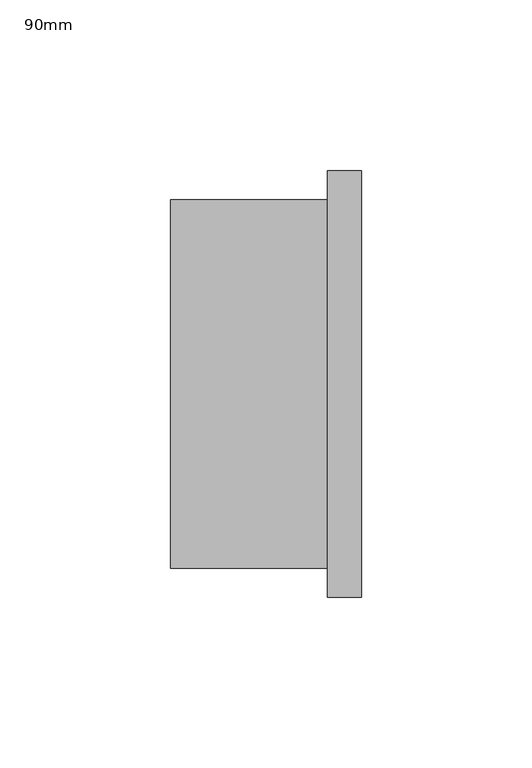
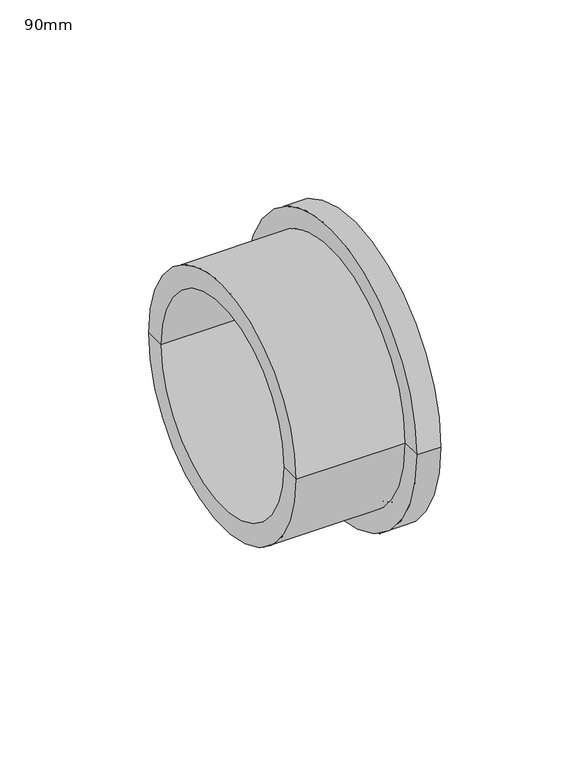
"""IFC4 building model written with IfcOpenShell, lengths in millimetres: pipe fitting geometry, Durapipe_PipeFitting_PVC_StubFlange : 90mm."""

from ifc_helpers import new_model, si_unit, frame, origin, place, context, project, spatial, polyline, circle_curve, source, transform, mapped, element, save
from ifc_brep_helpers import plane_surface, cylinder_surface, revolved_surface, advanced_brep


def pipe_fitting_90mm_9a9f9040(model_context):
    return source(origin(), model_context, "Body", "AdvancedBrep", [
        advanced_brep(
        [(28.0, -62.5, 0.0), (28.0, 62.5, 0.0), (28.0, 56.1, 0.0), (28.0, -56.1, 0.0), (28.0, 37.5, 0.0), (28.0, -37.5, 0.0), (28.0, -52.3720779, 0.0), (28.0, 52.3720779, 0.0), (18.0, -62.5, 0.0), (18.0, 62.5, 0.0), (18.0, -54.0, 0.0), (18.0, 54.0, 0.0), (-28.0, -54.0, 0.0), (-28.0, 54.0, 0.0), (-28.0, -45.0, 0.0), (-28.0, 45.0, 0.0), (23.0, 37.5, 0.0), (23.0, -37.5, 0.0), (23.0, -45.0, 0.0), (23.0, 45.0, 0.0), (28.0, 53.6147186, 0.0), (26.5, 52.9933983, 0.0), (26.5, -52.9933983, 0.0), (28.0, -53.6147186, 0.0), (26.5, -54.236039, 0.0), (26.5, 54.236039, 0.0), (28.0, -54.8573593, 0.0), (28.0, 54.8573593, 0.0), (26.5, -55.4786797, 0.0), (26.5, 55.4786797, 0.0)],
        [
            (0, 1, circle_curve(frame((28.0, 0.0, 0.0), z_axis=(1.0, 0.0, 0.0), x_axis=(0.0, 1.0, 0.0)), 62.5)),
            (1, 2),
            (2, 3, circle_curve(frame((28.0, 0.0, 0.0), z_axis=(-1.0, 0.0, 0.0), x_axis=(0.0, -1.0, 0.0)), 56.1)),
            (3, 0),
            (4, 5, circle_curve(frame((28.0, 0.0, 0.0), z_axis=(-1.0, 0.0, 0.0), x_axis=(0.0, 1.0, 0.0)), 37.5)),
            (5, 6),
            (6, 7, circle_curve(frame((28.0, 0.0, 0.0), z_axis=(1.0, 0.0, 0.0), x_axis=(0.0, -1.0, 0.0)), 52.3720779)),
            (7, 4),
            (1, 0, circle_curve(frame((28.0, 0.0, 0.0), z_axis=(1.0, 0.0, 0.0), x_axis=(0.0, 1.0, 0.0)), 62.5)),
            (3, 2, circle_curve(frame((28.0, 0.0, 0.0), z_axis=(-1.0, 0.0, 0.0), x_axis=(0.0, 1.0, 0.0)), 56.1)),
            (5, 4, circle_curve(frame((28.0, 0.0, 0.0), z_axis=(-1.0, 0.0, 0.0), x_axis=(0.0, 1.0, 0.0)), 37.5)),
            (7, 6, circle_curve(frame((28.0, 0.0, 0.0), z_axis=(1.0, 0.0, 0.0), x_axis=(0.0, 1.0, 0.0)), 52.3720779)),
            (0, 8),
            (8, 9, circle_curve(frame((18.0, 0.0, 0.0), z_axis=(1.0, 0.0, 0.0), x_axis=(0.0, 1.0, 0.0)), 62.5)),
            (9, 1),
            (9, 8, circle_curve(frame((18.0, 0.0, 0.0), z_axis=(1.0, 0.0, 0.0), x_axis=(0.0, 1.0, 0.0)), 62.5)),
            (8, 10),
            (10, 11, circle_curve(frame((18.0, 0.0, 0.0), z_axis=(1.0, 0.0, 0.0), x_axis=(0.0, 1.0, 0.0)), 54.0)),
            (11, 9),
            (11, 10, circle_curve(frame((18.0, 0.0, 0.0), z_axis=(1.0, 0.0, 0.0), x_axis=(0.0, 1.0, 0.0)), 54.0)),
            (10, 12),
            (12, 13, circle_curve(frame((-28.0, 0.0, 0.0), z_axis=(1.0, 0.0, 0.0), x_axis=(0.0, 1.0, 0.0)), 54.0)),
            (13, 11),
            (13, 12, circle_curve(frame((-28.0, 0.0, 0.0), z_axis=(1.0, 0.0, 0.0), x_axis=(0.0, 1.0, 0.0)), 54.0)),
            (12, 14),
            (14, 15, circle_curve(frame((-28.0, 0.0, 0.0), z_axis=(1.0, 0.0, 0.0), x_axis=(0.0, 1.0, 0.0)), 45.0)),
            (15, 13),
            (15, 14, circle_curve(frame((-28.0, 0.0, 0.0), z_axis=(1.0, 0.0, 0.0), x_axis=(0.0, 1.0, 0.0)), 45.0)),
            (4, 16),
            (16, 17, circle_curve(frame((23.0, 0.0, 0.0), z_axis=(-1.0, 0.0, 0.0), x_axis=(0.0, 1.0, 0.0)), 37.5)),
            (17, 5),
            (17, 16, circle_curve(frame((23.0, 0.0, 0.0), z_axis=(-1.0, 0.0, 0.0), x_axis=(0.0, 1.0, 0.0)), 37.5)),
            (14, 18),
            (18, 19, circle_curve(frame((23.0, 0.0, 0.0), z_axis=(1.0, 0.0, 0.0), x_axis=(0.0, 1.0, 0.0)), 45.0)),
            (19, 15),
            (19, 18, circle_curve(frame((23.0, 0.0, 0.0), z_axis=(1.0, 0.0, 0.0), x_axis=(0.0, 1.0, 0.0)), 45.0)),
            (18, 17),
            (16, 19),
            (20, 21),
            (21, 22, circle_curve(frame((26.5, 0.0, 0.0), z_axis=(-1.0, 0.0, 0.0), x_axis=(0.0, -1.0, 0.0)), 52.9933983)),
            (22, 23),
            (23, 20, circle_curve(frame((28.0, 0.0, 0.0), z_axis=(1.0, 0.0, 0.0), x_axis=(0.0, -1.0, 0.0)), 53.6147186)),
            (23, 24),
            (24, 25, circle_curve(frame((26.5, 0.0, 0.0), z_axis=(1.0, 0.0, 0.0), x_axis=(0.0, -1.0, 0.0)), 54.236039)),
            (25, 20),
            (24, 26),
            (26, 27, circle_curve(frame((28.0, 0.0, 0.0), z_axis=(1.0, 0.0, 0.0), x_axis=(0.0, -1.0, 0.0)), 54.8573593)),
            (27, 25),
            (26, 28),
            (28, 29, circle_curve(frame((26.5, 0.0, 0.0), z_axis=(1.0, 0.0, 0.0), x_axis=(0.0, -1.0, 0.0)), 55.4786797)),
            (29, 27),
            (28, 3),
            (2, 29),
            (21, 7),
            (6, 22),
            (20, 23, circle_curve(frame((28.0, 0.0, 0.0), z_axis=(1.0, 0.0, 0.0), x_axis=(0.0, 1.0, 0.0)), 53.6147186)),
            (22, 21, circle_curve(frame((26.5, 0.0, 0.0), z_axis=(-1.0, 0.0, 0.0), x_axis=(0.0, 1.0, 0.0)), 52.9933983)),
            (25, 24, circle_curve(frame((26.5, 0.0, 0.0), z_axis=(1.0, 0.0, 0.0), x_axis=(0.0, 1.0, 0.0)), 54.236039)),
            (27, 26, circle_curve(frame((28.0, 0.0, 0.0), z_axis=(1.0, 0.0, 0.0), x_axis=(0.0, 1.0, 0.0)), 54.8573593)),
            (29, 28, circle_curve(frame((26.5, 0.0, 0.0), z_axis=(1.0, 0.0, 0.0), x_axis=(0.0, 1.0, 0.0)), 55.4786797)),
        ],
        [
            plane_surface(frame((28.0, 0.0, 0.0), z_axis=(1.0, 0.0, 0.0), x_axis=(0.0, 1.0, 0.0))),
            cylinder_surface(frame((31.1035546, 0.0, 0.0), z_axis=(-1.0, 0.0, 0.0), x_axis=(0.0, 1.0, 0.0)), 62.5),
            plane_surface(frame((18.0, 0.0, 0.0), z_axis=(-1.0, 0.0, 0.0), x_axis=(0.0, 1.0, 0.0))),
            cylinder_surface(frame((31.1035546, 0.0, 0.0), z_axis=(-1.0, 0.0, 0.0), x_axis=(0.0, 1.0, 0.0)), 54.0),
            plane_surface(frame((-28.0, 0.0, 0.0), z_axis=(-1.0, 0.0, 0.0), x_axis=(0.0, 1.0, 0.0))),
            revolved_surface(polyline([(23.0, 37.5, 0.0), (28.0, 37.5, 0.0)]), (31.1035546, 0.0, 0.0), (-1.0, 0.0, 0.0)),
            revolved_surface(polyline([(-28.0, 45.0, 0.0), (23.0, 45.0, 0.0)]), (-29.8250714, 0.0, 0.0), (-1.0, 0.0, 0.0)),
            plane_surface(frame((23.0, 0.0, 0.0), z_axis=(-1.0, 0.0, 0.0), x_axis=(0.0, 1.0, 0.0))),
            revolved_surface(polyline([(28.0, -53.6147186, 0.0), (26.5, -52.9933983, 0.0)]), (28.0, 0.0, 0.0), (1.0, 0.0, 0.0)),
            revolved_surface(polyline([(26.5, -54.236039, 0.0), (28.0, -53.6147186, 0.0)]), (28.0, 0.0, 0.0), (1.0, 0.0, 0.0)),
            revolved_surface(polyline([(28.0, -54.8573593, 0.0), (26.5, -54.236039, 0.0)]), (28.0, 0.0, 0.0), (1.0, 0.0, 0.0)),
            revolved_surface(polyline([(26.5, -55.4786797, 0.0), (28.0, -54.8573593, 0.0)]), (28.0, 0.0, 0.0), (1.0, 0.0, 0.0)),
            revolved_surface(polyline([(28.0, -56.1, 0.0), (26.5, -55.4786797, 0.0)]), (28.0, 0.0, 0.0), (1.0, 0.0, 0.0)),
            revolved_surface(polyline([(26.5, -52.9933983, 0.0), (28.0, -52.3720779, 0.0)]), (28.0, 0.0, 0.0), (1.0, 0.0, 0.0)),
            revolved_surface(polyline([(28.0, 53.6147186, 0.0), (26.5, 52.9933983, 0.0)]), (28.0, 0.0, 0.0), (1.0, 0.0, 0.0)),
            revolved_surface(polyline([(26.5, 54.236039, 0.0), (28.0, 53.6147186, 0.0)]), (28.0, 0.0, 0.0), (1.0, 0.0, 0.0)),
            revolved_surface(polyline([(28.0, 54.8573593, 0.0), (26.5, 54.236039, 0.0)]), (28.0, 0.0, 0.0), (1.0, 0.0, 0.0)),
            revolved_surface(polyline([(26.5, 55.4786797, 0.0), (28.0, 54.8573593, 0.0)]), (28.0, 0.0, 0.0), (1.0, 0.0, 0.0)),
            revolved_surface(polyline([(28.0, 56.1, 0.0), (26.5, 55.4786797, 0.0)]), (28.0, 0.0, 0.0), (1.0, 0.0, 0.0)),
            revolved_surface(polyline([(26.5, 52.9933983, 0.0), (28.0, 52.3720779, 0.0)]), (28.0, 0.0, 0.0), (1.0, 0.0, 0.0)),
        ],
        [
            (0, [[1, 2, 3, 4]]),
            (0, [[5, 6, 7, 8]]),
            (0, [[9, -4, 10, -2]]),
            (0, [[11, -8, 12, -6]]),
            (1, [[-1, 13, 14, 15]]),
            (1, [[-9, -15, 16, -13]]),
            (2, [[-14, 17, 18, 19]]),
            (2, [[-16, -19, 20, -17]]),
            (3, [[-18, 21, 22, 23]]),
            (3, [[-20, -23, 24, -21]]),
            (4, [[-22, 25, 26, 27]]),
            (4, [[-24, -27, 28, -25]]),
            (5, [[-5, 29, 30, 31]]),
            (5, [[-11, -31, 32, -29]]),
            (6, [[33, 34, 35, -26]]),
            (6, [[-33, -28, -35, 36]]),
            (7, [[-34, 37, -30, 38]]),
            (7, [[-36, -38, -32, -37]]),
            (8, [[39, 40, 41, 42]]),
            (9, [[-42, 43, 44, 45]]),
            (10, [[-44, 46, 47, 48]]),
            (11, [[-47, 49, 50, 51]]),
            (12, [[-50, 52, -3, 53]]),
            (13, [[-40, 54, -7, 55]]),
            (14, [[-39, 56, -41, 57]]),
            (15, [[-45, 58, -43, -56]]),
            (16, [[-48, 59, -46, -58]]),
            (17, [[-51, 60, -49, -59]]),
            (18, [[-53, -10, -52, -60]]),
            (19, [[-54, -57, -55, -12]]),
        ],
    ),
    ])


if __name__ == "__main__":
    model = new_model("IFC4")
    model_context = context("Model", 3, world=origin())
    ifc_project = project(units=[si_unit("LENGTHUNIT", "METRE", prefix="MILLI")], contexts=[model_context])
    site = spatial("IfcSite", under=ifc_project)
    building = spatial("IfcBuilding", under=site)
    placement = place(None, origin())
    pipe_fitting_90mm_shape = pipe_fitting_90mm_9a9f9040(model_context)
    element("IfcPipeFitting", 1, ObjectType="Durapipe_PipeFitting_PVC_StubFlange : 90mm", at=placement, inside=building, context=model_context, shape_type="MappedRepresentation", body=[
        mapped(pipe_fitting_90mm_shape, transform((0.0, 0.0, 0.0), x_axis=(1.0, 0.0, 0.0), y_axis=(0.0, 1.0, 0.0), z_axis=(0.0, 0.0, 1.0))),
    ])
    save(model, "model.ifc")
